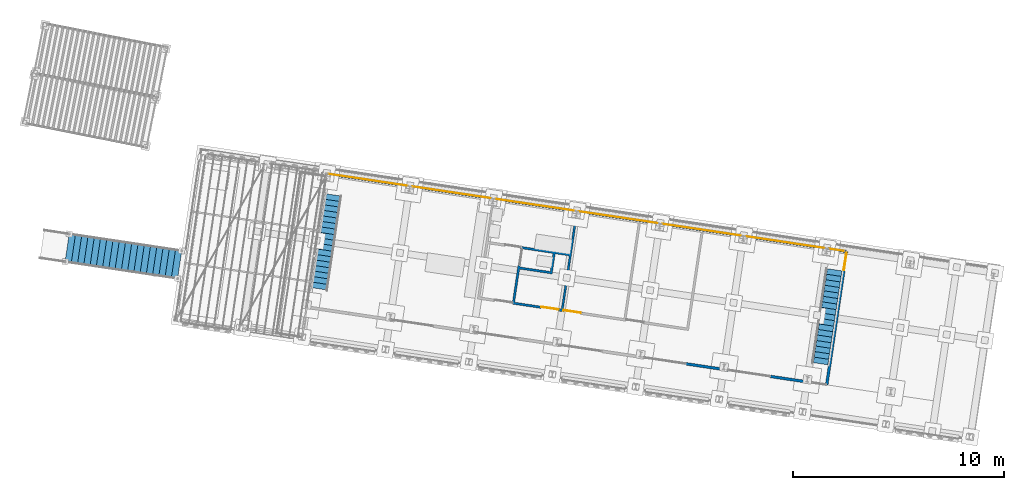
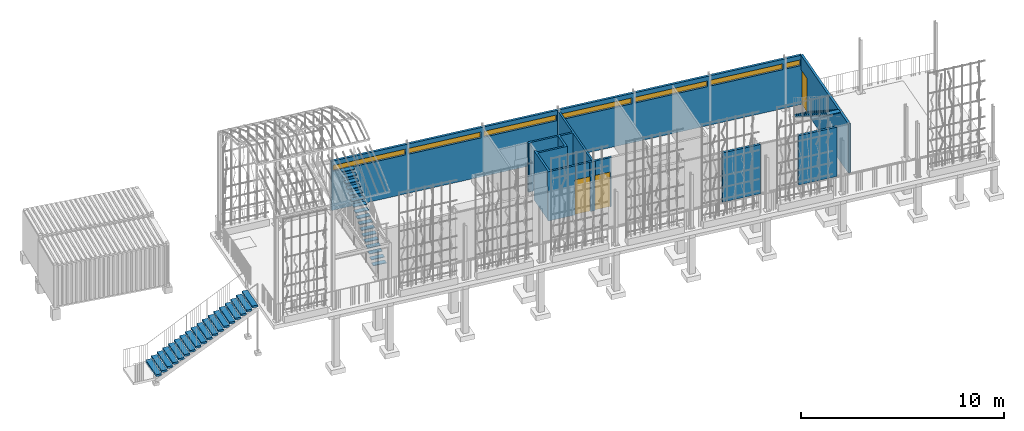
# One storey, part 137 of 143: 7 windows, 5 walls, 3 doors, 3 stair flights, 13 openings, 3 elements without a shape of their own.
"""IFC4 building model written with IfcOpenShell, lengths in metres."""

from ifc_helpers import new_model, si_unit, direction, frame, origin_with_axes, place, context, subcontext, project, spatial, polyline, outline, extrude, material, layer, layer_set, constituent, constituent_set, element, fill, aggregate, save


model = new_model("IFC4")

# Units and contexts
model_context = context("Model", 3, precision=1e-05, world=origin_with_axes(), true_north=direction((0.0, 1.0)))
body_context = subcontext(model_context, "Body", "Model", "MODEL_VIEW")
ifc_project = project(units=[si_unit("VOLUMEUNIT", "CUBIC_METRE"), si_unit("LENGTHUNIT", "METRE"), si_unit("AREAUNIT", "SQUARE_METRE")], contexts=[model_context])

# Site, building, storey
site_placement = place(None, origin_with_axes())
site = spatial("IfcSite", under=ifc_project, at=site_placement, Name="Lares · Rua das Mercês · artigo 4771")
building_placement = place(site_placement, frame((15.0, 9.7, 15.8), z_axis=(0.0, 0.0, 1.0), x_axis=(0.989015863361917, -0.147809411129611, 0.0)))
building = spatial("IfcBuilding", under=site, at=building_placement, Name="Casa Sobreposta")
storey_placement = place(building_placement, origin_with_axes())
storey = spatial("IfcBuildingStorey", under=building, at=storey_placement, Name="00 · Habitação e estacionamento", Elevation=15.8)

# Wall, openings, doors
ifc_material_1 = material(Name="OSB", Category="wood")
ifc_constituent_1 = constituent(ifc_material_1, Name="osb")
ifc_material_2 = material(Name="Lã mineral / Mineralwolle 2", Category="mineral wool")
ifc_constituent_2 = constituent(ifc_material_2, Name="wool")
ifc_constituent_set = constituent_set(constituents=[ifc_constituent_1, ifc_constituent_2], Name="OSB22 / lã mineral / OSB22")
wall_1_placement = place(storey_placement, origin_with_axes())
wall_1 = element("IfcWall", 1, at=wall_1_placement, inside=storey, material=ifc_constituent_set, Name="Divisória 2 · OSB 22 mm nas duas faces", context=body_context, shape_type="SweptSolid", body=[
    extrude(outline(polyline([(9.72999999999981, 3.383), (11.1799999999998, 3.383), (11.1799999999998, 4.24299999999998), (9.72999999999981, 4.24299999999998), (9.72999999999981, 4.19299999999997), (9.61999999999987, 4.19299999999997), (9.61999999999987, 4.24299999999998), (9.56999999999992, 4.24299999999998), (9.56999999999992, 4.35299999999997), (11.96, 4.35299999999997), (11.96, 6.27299999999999), (12.06, 6.27299999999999), (12.06, 1.70993390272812), (12.9746138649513, 1.7100856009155), (12.974632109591, 1.60008560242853), (12.1099999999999, 1.59994219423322), (12.1099999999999, 1.57999999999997), (11.8099999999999, 1.57999999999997), (11.8099999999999, 1.59995696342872), (11.05, 1.60006879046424), (11.05, 1.57999999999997), (9.56999999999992, 1.57999999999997), (9.56999999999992, 1.68999999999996), (9.61999999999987, 1.68999999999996), (9.61999999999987, 3.53299999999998), (9.72999999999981, 3.53299999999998), (9.72999999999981, 3.383)]), holes=[polyline([(9.64199999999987, 3.51099999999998), (9.64199999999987, 1.66799999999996), (9.59199999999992, 1.66799999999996), (9.59199999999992, 1.60199999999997), (11.028, 1.60199999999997), (11.028, 1.62207202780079), (11.8319999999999, 1.62195372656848), (11.8319999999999, 1.60199999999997), (12.0879999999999, 1.60199999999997), (12.0879999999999, 1.62193854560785), (12.9526284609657, 1.62208195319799), (12.9526175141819, 1.68808195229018), (12.038, 1.68793025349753), (12.038, 6.25099999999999), (11.982, 6.25099999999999), (11.982, 4.33099999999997), (9.59199999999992, 4.33099999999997), (9.59199999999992, 4.26499999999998), (9.64199999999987, 4.26499999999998), (9.64199999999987, 4.21499999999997), (9.70799999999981, 4.21499999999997), (9.70799999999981, 4.26499999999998), (11.2019999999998, 4.26499999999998), (11.2019999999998, 3.361), (9.70799999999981, 3.361), (9.70799999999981, 3.51099999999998), (9.64199999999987, 3.51099999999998)])]), origin_with_axes(), (0.0, 0.0, 1.0), 2.968),
    extrude(outline(polyline([(10.9666589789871, 1.66799999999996), (9.70799999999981, 1.66799999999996), (9.70799999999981, 3.29500000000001), (11.268, 3.29500000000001), (11.268, 4.26499999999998), (11.982, 4.26499999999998), (11.982, 1.66799999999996), (11.892736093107, 1.66799999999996), (11.8927390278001, 1.68794479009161), (10.9666619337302, 1.68808105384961), (10.9666589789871, 1.66799999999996)]), holes=[polyline([(11.96, 4.24299999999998), (11.29, 4.24299999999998), (11.29, 3.27300000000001), (9.72999999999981, 3.27300000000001), (9.72999999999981, 1.68999999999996), (10.9446622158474, 1.68999999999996), (10.9446651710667, 1.71008429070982), (11.9147422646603, 1.70994155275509), (11.9147393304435, 1.68999999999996), (11.96, 1.68999999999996), (11.96, 4.24299999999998)])]), origin_with_axes(), (0.0, 0.0, 1.0), 2.968),
    extrude(outline(polyline([(9.70799999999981, 3.51099999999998), (9.70799999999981, 3.361), (11.2019999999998, 3.361), (11.2019999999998, 4.26499999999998), (9.70799999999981, 4.26499999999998), (9.70799999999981, 4.21499999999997), (9.64199999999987, 4.21499999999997), (9.64199999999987, 4.26499999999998), (9.59199999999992, 4.26499999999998), (9.59199999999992, 4.33099999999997), (11.982, 4.33099999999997), (11.982, 6.25099999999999), (12.038, 6.25099999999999), (12.038, 1.68793025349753), (12.9526175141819, 1.68808195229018), (12.9526284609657, 1.62208195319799), (12.0879999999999, 1.62193854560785), (12.0879999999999, 1.60199999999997), (11.8319999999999, 1.60199999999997), (11.8319999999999, 1.62195372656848), (11.028, 1.62207202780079), (11.028, 1.60199999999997), (9.59199999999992, 1.60199999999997), (9.59199999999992, 1.66799999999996), (9.64199999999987, 1.66799999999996), (9.64199999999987, 3.51099999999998), (9.70799999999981, 3.51099999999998)]), holes=[polyline([(10.9666619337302, 1.68808105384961), (11.8927390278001, 1.68794479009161), (11.892736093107, 1.66799999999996), (11.982, 1.66799999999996), (11.982, 4.26499999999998), (11.268, 4.26499999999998), (11.268, 3.29500000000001), (9.70799999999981, 3.29500000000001), (9.70799999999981, 1.66799999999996), (10.9666589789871, 1.66799999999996), (10.9666619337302, 1.68808105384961)])]), origin_with_axes(), (0.0, 0.0, 1.0), 2.968),
])
opening_1_placement = place(wall_1_placement, origin_with_axes())
opening_1 = element("IfcOpeningElement", 2, at=opening_1_placement, cuts=wall_1, PredefinedType="OPENING", context=body_context, shape_type="SweptSolid", body=[
    extrude(outline(polyline([(12.9045964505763, 1.81507398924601), (12.9046495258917, 1.49507399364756), (12.0745568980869, 1.49493631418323), (12.0745038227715, 1.81493630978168), (12.9045964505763, 1.81507398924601)])), origin_with_axes(), (0.0, 0.0, 1.0), 2.1),
])
opening_2_placement = place(wall_1_placement, origin_with_axes())
element("IfcOpeningElement", 3, at=opening_2_placement, cuts=wall_1, PredefinedType="OPENING", context=body_context, shape_type="SweptSolid", body=[
    extrude(outline(polyline([(8.87451187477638, 4.15754451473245), (8.87455853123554, 4.47754451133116), (9.60464431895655, 4.4774380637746), (9.60459766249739, 4.15743806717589), (8.87451187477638, 4.15754451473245)])), origin_with_axes(), (0.0, 0.0, 1.0), 2.1),
])
opening_3_placement = place(wall_1_placement, origin_with_axes())
element("IfcOpeningElement", 4, at=opening_3_placement, cuts=wall_1, PredefinedType="OPENING", context=body_context, shape_type="SweptSolid", body=[
    extrude(outline(polyline([(8.77453708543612, 1.49507399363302), (8.77458998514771, 1.81507398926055), (9.60468215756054, 1.81493676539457), (9.60462925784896, 1.49493676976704), (8.77453708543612, 1.49507399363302)])), origin_with_axes(), (0.0, 0.0, 1.0), 2.1),
])
opening_4_placement = place(wall_1_placement, origin_with_axes())
opening_4 = element("IfcOpeningElement", 5, at=opening_4_placement, cuts=wall_1, Name="Vão porta interior 5.1", PredefinedType="OPENING", context=body_context, shape_type="SweptSolid", body=[
    extrude(outline(polyline([(11.0146335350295, 1.49507399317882), (11.0146806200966, 1.81507398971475), (11.8447577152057, 1.81495185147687), (11.8447106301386, 1.49495185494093), (11.0146335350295, 1.49507399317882)])), origin_with_axes(), (0.0, 0.0, 1.0), 2.1),
])
opening_5_placement = place(wall_1_placement, origin_with_axes())
element("IfcOpeningElement", 6, at=opening_5_placement, cuts=wall_1, PredefinedType="OPENING", context=body_context, shape_type="SweptSolid", body=[
    extrude(outline(polyline([(9.85466693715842, 3.49756304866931), (9.53466694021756, 3.49751880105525), (9.5345659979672, 4.22753601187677), (9.85456599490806, 4.22758025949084), (9.85466693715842, 3.49756304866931)])), origin_with_axes(), (0.0, 0.0, 1.0), 2.1),
])
door_1_placement = place(storey_placement, origin_with_axes())
door_1 = element("IfcDoor", 7, at=door_1_placement, inside=storey, material=ifc_material_1, Name="Porta interior 2", OperationType="SINGLE_SWING_LEFT", OverallHeight=2.1, OverallWidth=0.830092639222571, PredefinedType="DOOR", context=body_context, shape_type="SweptSolid", body=[
    extrude(outline(polyline([(12.9046200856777, 1.67257399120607), (12.9046258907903, 1.63757399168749), (12.0745332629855, 1.63743631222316), (12.0745274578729, 1.67243631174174), (12.9046200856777, 1.67257399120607)])), origin_with_axes(), (0.0, 0.0, 1.0), 2.1),
])
fill(opening_1, door_1)
door_2_placement = place(storey_placement, origin_with_axes())
door_2 = element("IfcDoor", 8, at=door_2_placement, inside=storey, material=ifc_material_1, Name="Porta interior 5", OperationType="SINGLE_SWING_LEFT", OverallHeight=2.1, OverallWidth=0.830077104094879, PredefinedType="DOOR", context=body_context, shape_type="SweptSolid", body=[
    extrude(outline(polyline([(11.0146545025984, 1.63757399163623), (11.0146596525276, 1.67257399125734), (11.8447367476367, 1.67245185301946), (11.8447315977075, 1.63745185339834), (11.0146545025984, 1.63757399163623)])), origin_with_axes(), (0.0, 0.0, 1.0), 2.1),
])
fill(opening_4, door_2)

# Wall, openings, windows
ifc_material_3 = material(Name="Aço pintado / Stahl lackiert", Category="steel")
ifc_layer_1 = layer(ifc_material_3, 0.005, Name="steel")
ifc_layer_2 = layer(ifc_material_2, 0.12, Name="wool")
ifc_layer_3 = layer(ifc_material_3, 0.00516, Name="steel")
ifc_layer_set_1 = layer_set([ifc_layer_1, ifc_layer_2, ifc_layer_3], Name="Casa DFL sandwich · 130.16 mm")
wall_2_placement = place(storey_placement, origin_with_axes())
wall_2 = element("IfcWall", 9, at=wall_2_placement, inside=storey, material=ifc_layer_set_1, Name="Fachada norte · sandwich Casa DFL", context=body_context, shape_type="SweptSolid", body=[
    extrude(outline(polyline([(24.92, 6.46508), (24.92, 6.33492), (0.0, 6.33492), (0.0, 6.46508), (24.92, 6.46508)])), origin_with_axes(), (0.0, 0.0, 1.0), 2.968),
])
opening_6_placement = place(wall_2_placement, frame((0.0, 0.0, 2.35), z_axis=(0.0, 0.0, 1.0), x_axis=(1.0, 0.0, 0.0)))
opening_6 = element("IfcOpeningElement", 10, at=opening_6_placement, cuts=wall_2, Name="Vão rasgo norte 1", PredefinedType="OPENING", context=body_context, shape_type="SweptSolid", body=[
    extrude(outline(polyline([(3.92, 6.6), (3.92, 6.2), (0.08, 6.2), (0.08, 6.6), (3.92, 6.6)])), origin_with_axes(), (0.0, 0.0, 1.0), 0.35),
])
opening_7_placement = place(wall_2_placement, frame((0.0, 0.0, 2.35), z_axis=(0.0, 0.0, 1.0), x_axis=(1.0, 0.0, 0.0)))
opening_7 = element("IfcOpeningElement", 11, at=opening_7_placement, cuts=wall_2, Name="Vão rasgo norte 2", PredefinedType="OPENING", context=body_context, shape_type="SweptSolid", body=[
    extrude(outline(polyline([(7.92, 6.6), (7.92, 6.2), (4.08, 6.2), (4.08, 6.6), (7.92, 6.6)])), origin_with_axes(), (0.0, 0.0, 1.0), 0.35),
])
opening_8_placement = place(wall_2_placement, frame((0.0, 0.0, 2.35), z_axis=(0.0, 0.0, 1.0), x_axis=(1.0, 0.0, 0.0)))
opening_8 = element("IfcOpeningElement", 12, at=opening_8_placement, cuts=wall_2, Name="Vão rasgo norte 3", PredefinedType="OPENING", context=body_context, shape_type="SweptSolid", body=[
    extrude(outline(polyline([(11.92, 6.6), (11.92, 6.2), (8.08, 6.2), (8.08, 6.6), (11.92, 6.6)])), origin_with_axes(), (0.0, 0.0, 1.0), 0.35),
])
opening_9_placement = place(wall_2_placement, frame((0.0, 0.0, 2.35), z_axis=(0.0, 0.0, 1.0), x_axis=(1.0, 0.0, 0.0)))
opening_9 = element("IfcOpeningElement", 13, at=opening_9_placement, cuts=wall_2, Name="Vão rasgo norte 4", PredefinedType="OPENING", context=body_context, shape_type="SweptSolid", body=[
    extrude(outline(polyline([(15.92, 6.6), (15.92, 6.2), (12.08, 6.2), (12.08, 6.6), (15.92, 6.6)])), origin_with_axes(), (0.0, 0.0, 1.0), 0.35),
])
opening_10_placement = place(wall_2_placement, frame((0.0, 0.0, 2.35), z_axis=(0.0, 0.0, 1.0), x_axis=(1.0, 0.0, 0.0)))
opening_10 = element("IfcOpeningElement", 14, at=opening_10_placement, cuts=wall_2, Name="Vão rasgo norte 5", PredefinedType="OPENING", context=body_context, shape_type="SweptSolid", body=[
    extrude(outline(polyline([(19.92, 6.6), (19.92, 6.2), (16.08, 6.2), (16.08, 6.6), (19.92, 6.6)])), origin_with_axes(), (0.0, 0.0, 1.0), 0.35),
])
opening_11_placement = place(wall_2_placement, frame((0.0, 0.0, 2.35), z_axis=(0.0, 0.0, 1.0), x_axis=(1.0, 0.0, 0.0)))
opening_11 = element("IfcOpeningElement", 15, at=opening_11_placement, cuts=wall_2, Name="Vão rasgo norte 6", PredefinedType="OPENING", context=body_context, shape_type="SweptSolid", body=[
    extrude(outline(polyline([(23.92, 6.6), (23.92, 6.2), (20.08, 6.2), (20.08, 6.6), (23.92, 6.6)])), origin_with_axes(), (0.0, 0.0, 1.0), 0.35),
])
opening_12_placement = place(wall_2_placement, frame((0.0, 0.0, 2.35), z_axis=(0.0, 0.0, 1.0), x_axis=(1.0, 0.0, 0.0)))
opening_12 = element("IfcOpeningElement", 16, at=opening_12_placement, cuts=wall_2, Name="Vão rasgo norte 7", PredefinedType="OPENING", context=body_context, shape_type="SweptSolid", body=[
    extrude(outline(polyline([(24.84, 6.6), (24.84, 6.2), (24.08, 6.2), (24.08, 6.6), (24.84, 6.6)])), origin_with_axes(), (0.0, 0.0, 1.0), 0.35),
])
ifc_material_4 = material(Name="Vidro / Normalglas", Category="glass")
window_1_placement = place(storey_placement, frame((0.0, 0.0, 2.375), z_axis=(0.0, 0.0, 1.0), x_axis=(1.0, 0.0, 0.0)))
window_1 = element("IfcWindow", 17, at=window_1_placement, inside=storey, material=ifc_material_4, Name="Rasgo norte 1", OverallHeight=0.3, OverallWidth=3.79, PartitioningType="SINGLE_PANEL", PredefinedType="WINDOW", context=body_context, shape_type="SweptSolid", body=[
    extrude(outline(polyline([(3.895, 6.404), (3.895, 6.396), (0.105, 6.396), (0.105, 6.404), (3.895, 6.404)])), origin_with_axes(), (0.0, 0.0, 1.0), 0.3),
])
fill(opening_6, window_1)
window_2_placement = place(storey_placement, frame((0.0, 0.0, 2.375), z_axis=(0.0, 0.0, 1.0), x_axis=(1.0, 0.0, 0.0)))
window_2 = element("IfcWindow", 18, at=window_2_placement, inside=storey, material=ifc_material_4, Name="Rasgo norte 2", OverallHeight=0.3, OverallWidth=3.79, PartitioningType="SINGLE_PANEL", PredefinedType="WINDOW", context=body_context, shape_type="SweptSolid", body=[
    extrude(outline(polyline([(7.895, 6.404), (7.895, 6.396), (4.105, 6.396), (4.105, 6.404), (7.895, 6.404)])), origin_with_axes(), (0.0, 0.0, 1.0), 0.3),
])
fill(opening_7, window_2)
window_3_placement = place(storey_placement, frame((0.0, 0.0, 2.375), z_axis=(0.0, 0.0, 1.0), x_axis=(1.0, 0.0, 0.0)))
window_3 = element("IfcWindow", 19, at=window_3_placement, inside=storey, material=ifc_material_4, Name="Rasgo norte 3", OverallHeight=0.3, OverallWidth=3.79, PartitioningType="SINGLE_PANEL", PredefinedType="WINDOW", context=body_context, shape_type="SweptSolid", body=[
    extrude(outline(polyline([(11.895, 6.404), (11.895, 6.396), (8.105, 6.396), (8.105, 6.404), (11.895, 6.404)])), origin_with_axes(), (0.0, 0.0, 1.0), 0.3),
])
fill(opening_8, window_3)
window_4_placement = place(storey_placement, frame((0.0, 0.0, 2.375), z_axis=(0.0, 0.0, 1.0), x_axis=(1.0, 0.0, 0.0)))
window_4 = element("IfcWindow", 20, at=window_4_placement, inside=storey, material=ifc_material_4, Name="Rasgo norte 4", OverallHeight=0.3, OverallWidth=3.79, PartitioningType="SINGLE_PANEL", PredefinedType="WINDOW", context=body_context, shape_type="SweptSolid", body=[
    extrude(outline(polyline([(15.895, 6.404), (15.895, 6.396), (12.105, 6.396), (12.105, 6.404), (15.895, 6.404)])), origin_with_axes(), (0.0, 0.0, 1.0), 0.3),
])
fill(opening_9, window_4)
window_5_placement = place(storey_placement, frame((0.0, 0.0, 2.375), z_axis=(0.0, 0.0, 1.0), x_axis=(1.0, 0.0, 0.0)))
window_5 = element("IfcWindow", 21, at=window_5_placement, inside=storey, material=ifc_material_4, Name="Rasgo norte 5", OverallHeight=0.3, OverallWidth=3.79, PartitioningType="SINGLE_PANEL", PredefinedType="WINDOW", context=body_context, shape_type="SweptSolid", body=[
    extrude(outline(polyline([(19.895, 6.404), (19.895, 6.396), (16.105, 6.396), (16.105, 6.404), (19.895, 6.404)])), origin_with_axes(), (0.0, 0.0, 1.0), 0.3),
])
fill(opening_10, window_5)
window_6_placement = place(storey_placement, frame((0.0, 0.0, 2.375), z_axis=(0.0, 0.0, 1.0), x_axis=(1.0, 0.0, 0.0)))
window_6 = element("IfcWindow", 22, at=window_6_placement, inside=storey, material=ifc_material_4, Name="Rasgo norte 6", OverallHeight=0.3, OverallWidth=3.79, PartitioningType="SINGLE_PANEL", PredefinedType="WINDOW", context=body_context, shape_type="SweptSolid", body=[
    extrude(outline(polyline([(23.895, 6.404), (23.895, 6.396), (20.105, 6.396), (20.105, 6.404), (23.895, 6.404)])), origin_with_axes(), (0.0, 0.0, 1.0), 0.3),
])
fill(opening_11, window_6)
window_7_placement = place(storey_placement, frame((0.0, 0.0, 2.375), z_axis=(0.0, 0.0, 1.0), x_axis=(1.0, 0.0, 0.0)))
window_7 = element("IfcWindow", 23, at=window_7_placement, inside=storey, material=ifc_material_4, Name="Rasgo norte 7", OverallHeight=0.3, OverallWidth=0.710000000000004, PartitioningType="SINGLE_PANEL", PredefinedType="WINDOW", context=body_context, shape_type="SweptSolid", body=[
    extrude(outline(polyline([(24.815, 6.404), (24.815, 6.396), (24.105, 6.396), (24.105, 6.404), (24.815, 6.404)])), origin_with_axes(), (0.0, 0.0, 1.0), 0.3),
])
fill(opening_12, window_7)

# Wall, opening, door
ifc_layer_4 = layer(ifc_material_3, 0.005, Name="steel")
ifc_layer_5 = layer(ifc_material_2, 0.12, Name="wool")
ifc_layer_6 = layer(ifc_material_3, 0.00516, Name="steel")
ifc_layer_set_2 = layer_set([ifc_layer_4, ifc_layer_5, ifc_layer_6], Name="Casa DFL sandwich · 130.16 mm")
wall_3_placement = place(storey_placement, origin_with_axes())
wall_3 = element("IfcWall", 24, at=wall_3_placement, inside=storey, material=ifc_layer_set_2, Name="Separação do estacionamento", context=body_context, shape_type="SweptSolid", body=[
    extrude(outline(polyline([(24.87992, 6.4), (25.01008, 6.4), (25.01008, 0.0), (24.87992, 0.0), (24.87992, 6.4)])), origin_with_axes(), (0.0, 0.0, 1.0), 2.968),
])
opening_13_placement = place(wall_3_placement, origin_with_axes())
opening_13 = element("IfcOpeningElement", 25, at=opening_13_placement, cuts=wall_3, Name="Vão de acesso do estacionamento", PredefinedType="OPENING", context=body_context, shape_type="SweptSolid", body=[
    extrude(outline(polyline([(24.745, 6.34), (25.145, 6.34), (25.145, 5.51), (24.745, 5.51), (24.745, 6.34)])), origin_with_axes(), (0.0, 0.0, 1.0), 2.1),
])
door_3_placement = place(storey_placement, origin_with_axes())
door_3 = element("IfcDoor", 26, at=door_3_placement, inside=storey, material=ifc_material_3, Name="Porta do estacionamento", OperationType="SINGLE_SWING_LEFT", OverallHeight=2.1, OverallWidth=0.83, PredefinedType="DOOR", context=body_context, shape_type="SweptSolid", body=[
    extrude(outline(polyline([(24.925, 6.34), (24.965, 6.34), (24.965, 5.51), (24.925, 5.51), (24.925, 6.34)])), origin_with_axes(), (0.0, 0.0, 1.0), 2.1),
])
fill(opening_13, door_3)

# Walls
ifc_layer_7 = layer(ifc_material_3, 0.005, Name="steel")
ifc_layer_8 = layer(ifc_material_2, 0.12, Name="wool")
ifc_layer_9 = layer(ifc_material_3, 0.00516, Name="steel")
ifc_layer_set_3 = layer_set([ifc_layer_7, ifc_layer_8, ifc_layer_9], Name="Casa DFL sandwich · 130.16 mm")
wall_4_placement = place(storey_placement, origin_with_axes())
element("IfcWall", 27, at=wall_4_placement, inside=storey, material=ifc_layer_set_3, Name="Painel opaco sul 9", context=body_context, shape_type="SweptSolid", body=[
    extrude(outline(polyline([(20.2133333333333, 0.06508), (20.2133333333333, -0.06508), (18.192, -0.06508), (18.192, 0.06508), (20.2133333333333, 0.06508)])), origin_with_axes(), (0.0, 0.0, 1.0), 2.968),
])
ifc_layer_10 = layer(ifc_material_3, 0.005, Name="steel")
ifc_layer_11 = layer(ifc_material_2, 0.12, Name="wool")
ifc_layer_12 = layer(ifc_material_3, 0.00516, Name="steel")
ifc_layer_set_4 = layer_set([ifc_layer_10, ifc_layer_11, ifc_layer_12], Name="Casa DFL sandwich · 130.16 mm")
wall_5_placement = place(storey_placement, origin_with_axes())
element("IfcWall", 28, at=wall_5_placement, inside=storey, material=ifc_layer_set_4, Name="Painel opaco sul 11", context=body_context, shape_type="SweptSolid", body=[
    extrude(outline(polyline([(24.256, 0.06508), (24.256, -0.06508), (22.2346666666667, -0.06508), (22.2346666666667, 0.06508), (24.256, 0.06508)])), origin_with_axes(), (0.0, 0.0, 1.0), 2.968),
])

# Stair, stair flight
stair_1_placement = place(storey_placement, origin_with_axes())
stair_1 = element("IfcStair", 29, at=stair_1_placement, inside=storey, Name="Escada sala", PredefinedType="STRAIGHT_RUN_STAIR")
stair_flight_1_placement = place(stair_1_placement, origin_with_axes())
stair_flight_1 = element("IfcStairFlight", 30, at=stair_flight_1_placement, material=ifc_material_1, Name="Lanço sala", NumberOfRisers=18, NumberOfTreads=17, PredefinedType="STRAIGHT", RiserHeight=0.18, TreadLength=0.265, context=body_context, shape_type="SweptSolid", body=[
    extrude(outline(polyline([(0.79, 0.9475), (0.79, 1.2125), (0.09, 1.2125), (0.09, 0.9475), (0.79, 0.9475)])), frame((0.0, 0.0, 0.14), z_axis=(0.0, 0.0, 1.0), x_axis=(1.0, 0.0, 0.0)), (0.0, 0.0, 1.0), 0.04),
    extrude(outline(polyline([(0.79, 1.2125), (0.79, 1.4775), (0.09, 1.4775), (0.09, 1.2125), (0.79, 1.2125)])), frame((0.0, 0.0, 0.32), z_axis=(0.0, 0.0, 1.0), x_axis=(1.0, 0.0, 0.0)), (0.0, 0.0, 1.0), 0.04),
    extrude(outline(polyline([(0.79, 1.4775), (0.79, 1.7425), (0.09, 1.7425), (0.09, 1.4775), (0.79, 1.4775)])), frame((0.0, 0.0, 0.5), z_axis=(0.0, 0.0, 1.0), x_axis=(1.0, 0.0, 0.0)), (0.0, 0.0, 1.0), 0.04),
    extrude(outline(polyline([(0.79, 1.7425), (0.79, 2.0075), (0.09, 2.0075), (0.09, 1.7425), (0.79, 1.7425)])), frame((0.0, 0.0, 0.68), z_axis=(0.0, 0.0, 1.0), x_axis=(1.0, 0.0, 0.0)), (0.0, 0.0, 1.0), 0.04),
    extrude(outline(polyline([(0.79, 2.0075), (0.79, 2.2725), (0.09, 2.2725), (0.09, 2.0075), (0.79, 2.0075)])), frame((0.0, 0.0, 0.86), z_axis=(0.0, 0.0, 1.0), x_axis=(1.0, 0.0, 0.0)), (0.0, 0.0, 1.0), 0.04),
    extrude(outline(polyline([(0.79, 2.2725), (0.79, 2.5375), (0.09, 2.5375), (0.09, 2.2725), (0.79, 2.2725)])), frame((0.0, 0.0, 1.04), z_axis=(0.0, 0.0, 1.0), x_axis=(1.0, 0.0, 0.0)), (0.0, 0.0, 1.0), 0.04),
    extrude(outline(polyline([(0.79, 2.5375), (0.79, 2.8025), (0.09, 2.8025), (0.09, 2.5375), (0.79, 2.5375)])), frame((0.0, 0.0, 1.22), z_axis=(0.0, 0.0, 1.0), x_axis=(1.0, 0.0, 0.0)), (0.0, 0.0, 1.0), 0.04),
    extrude(outline(polyline([(0.79, 2.8025), (0.79, 3.0675), (0.09, 3.0675), (0.09, 2.8025), (0.79, 2.8025)])), frame((0.0, 0.0, 1.4), z_axis=(0.0, 0.0, 1.0), x_axis=(1.0, 0.0, 0.0)), (0.0, 0.0, 1.0), 0.04),
    extrude(outline(polyline([(0.79, 3.0675), (0.79, 3.3325), (0.09, 3.3325), (0.09, 3.0675), (0.79, 3.0675)])), frame((0.0, 0.0, 1.58), z_axis=(0.0, 0.0, 1.0), x_axis=(1.0, 0.0, 0.0)), (0.0, 0.0, 1.0), 0.04),
    extrude(outline(polyline([(0.79, 3.3325), (0.79, 3.5975), (0.09, 3.5975), (0.09, 3.3325), (0.79, 3.3325)])), frame((0.0, 0.0, 1.76), z_axis=(0.0, 0.0, 1.0), x_axis=(1.0, 0.0, 0.0)), (0.0, 0.0, 1.0), 0.04),
    extrude(outline(polyline([(0.79, 3.5975), (0.79, 3.8625), (0.09, 3.8625), (0.09, 3.5975), (0.79, 3.5975)])), frame((0.0, 0.0, 1.94), z_axis=(0.0, 0.0, 1.0), x_axis=(1.0, 0.0, 0.0)), (0.0, 0.0, 1.0), 0.04),
    extrude(outline(polyline([(0.79, 3.8625), (0.79, 4.1275), (0.09, 4.1275), (0.09, 3.8625), (0.79, 3.8625)])), frame((0.0, 0.0, 2.12), z_axis=(0.0, 0.0, 1.0), x_axis=(1.0, 0.0, 0.0)), (0.0, 0.0, 1.0), 0.04),
    extrude(outline(polyline([(0.79, 4.1275), (0.79, 4.3925), (0.09, 4.3925), (0.09, 4.1275), (0.79, 4.1275)])), frame((0.0, 0.0, 2.3), z_axis=(0.0, 0.0, 1.0), x_axis=(1.0, 0.0, 0.0)), (0.0, 0.0, 1.0), 0.04),
    extrude(outline(polyline([(0.79, 4.3925), (0.79, 4.6575), (0.09, 4.6575), (0.09, 4.3925), (0.79, 4.3925)])), frame((0.0, 0.0, 2.48), z_axis=(0.0, 0.0, 1.0), x_axis=(1.0, 0.0, 0.0)), (0.0, 0.0, 1.0), 0.04),
    extrude(outline(polyline([(0.79, 4.6575), (0.79, 4.9225), (0.09, 4.9225), (0.09, 4.6575), (0.79, 4.6575)])), frame((0.0, 0.0, 2.66), z_axis=(0.0, 0.0, 1.0), x_axis=(1.0, 0.0, 0.0)), (0.0, 0.0, 1.0), 0.04),
    extrude(outline(polyline([(0.79, 4.9225), (0.79, 5.1875), (0.09, 5.1875), (0.09, 4.9225), (0.79, 4.9225)])), frame((0.0, 0.0, 2.84), z_axis=(0.0, 0.0, 1.0), x_axis=(1.0, 0.0, 0.0)), (0.0, 0.0, 1.0), 0.04),
    extrude(outline(polyline([(0.79, 5.1875), (0.79, 5.4525), (0.09, 5.4525), (0.09, 5.1875), (0.79, 5.1875)])), frame((0.0, 0.0, 3.02), z_axis=(0.0, 0.0, 1.0), x_axis=(1.0, 0.0, 0.0)), (0.0, 0.0, 1.0), 0.04),
])
aggregate(stair_1, [stair_flight_1])

stair_2_placement = place(storey_placement, origin_with_axes())
stair_2 = element("IfcStair", 31, at=stair_2_placement, inside=storey, Name="Escada garagem", PredefinedType="STRAIGHT_RUN_STAIR")
stair_flight_2_placement = place(stair_2_placement, origin_with_axes())
stair_flight_2 = element("IfcStairFlight", 32, at=stair_flight_2_placement, material=ifc_material_1, Name="Lanço garagem", NumberOfRisers=18, NumberOfTreads=17, PredefinedType="STRAIGHT", RiserHeight=0.18, TreadLength=0.265, context=body_context, shape_type="SweptSolid", body=[
    extrude(outline(polyline([(24.86, 5.1875), (24.86, 5.4525), (24.16, 5.4525), (24.16, 5.1875), (24.86, 5.1875)])), frame((0.0, 0.0, 0.14), z_axis=(0.0, 0.0, 1.0), x_axis=(1.0, 0.0, 0.0)), (0.0, 0.0, 1.0), 0.04),
    extrude(outline(polyline([(24.86, 4.9225), (24.86, 5.1875), (24.16, 5.1875), (24.16, 4.9225), (24.86, 4.9225)])), frame((0.0, 0.0, 0.32), z_axis=(0.0, 0.0, 1.0), x_axis=(1.0, 0.0, 0.0)), (0.0, 0.0, 1.0), 0.04),
    extrude(outline(polyline([(24.86, 4.6575), (24.86, 4.9225), (24.16, 4.9225), (24.16, 4.6575), (24.86, 4.6575)])), frame((0.0, 0.0, 0.5), z_axis=(0.0, 0.0, 1.0), x_axis=(1.0, 0.0, 0.0)), (0.0, 0.0, 1.0), 0.04),
    extrude(outline(polyline([(24.86, 4.3925), (24.86, 4.6575), (24.16, 4.6575), (24.16, 4.3925), (24.86, 4.3925)])), frame((0.0, 0.0, 0.68), z_axis=(0.0, 0.0, 1.0), x_axis=(1.0, 0.0, 0.0)), (0.0, 0.0, 1.0), 0.04),
    extrude(outline(polyline([(24.86, 4.1275), (24.86, 4.3925), (24.16, 4.3925), (24.16, 4.1275), (24.86, 4.1275)])), frame((0.0, 0.0, 0.86), z_axis=(0.0, 0.0, 1.0), x_axis=(1.0, 0.0, 0.0)), (0.0, 0.0, 1.0), 0.04),
    extrude(outline(polyline([(24.86, 3.8625), (24.86, 4.1275), (24.16, 4.1275), (24.16, 3.8625), (24.86, 3.8625)])), frame((0.0, 0.0, 1.04), z_axis=(0.0, 0.0, 1.0), x_axis=(1.0, 0.0, 0.0)), (0.0, 0.0, 1.0), 0.04),
    extrude(outline(polyline([(24.86, 3.5975), (24.86, 3.8625), (24.16, 3.8625), (24.16, 3.5975), (24.86, 3.5975)])), frame((0.0, 0.0, 1.22), z_axis=(0.0, 0.0, 1.0), x_axis=(1.0, 0.0, 0.0)), (0.0, 0.0, 1.0), 0.04),
    extrude(outline(polyline([(24.86, 3.3325), (24.86, 3.5975), (24.16, 3.5975), (24.16, 3.3325), (24.86, 3.3325)])), frame((0.0, 0.0, 1.4), z_axis=(0.0, 0.0, 1.0), x_axis=(1.0, 0.0, 0.0)), (0.0, 0.0, 1.0), 0.04),
    extrude(outline(polyline([(24.86, 3.0675), (24.86, 3.3325), (24.16, 3.3325), (24.16, 3.0675), (24.86, 3.0675)])), frame((0.0, 0.0, 1.58), z_axis=(0.0, 0.0, 1.0), x_axis=(1.0, 0.0, 0.0)), (0.0, 0.0, 1.0), 0.04),
    extrude(outline(polyline([(24.86, 2.8025), (24.86, 3.0675), (24.16, 3.0675), (24.16, 2.8025), (24.86, 2.8025)])), frame((0.0, 0.0, 1.76), z_axis=(0.0, 0.0, 1.0), x_axis=(1.0, 0.0, 0.0)), (0.0, 0.0, 1.0), 0.04),
    extrude(outline(polyline([(24.86, 2.5375), (24.86, 2.8025), (24.16, 2.8025), (24.16, 2.5375), (24.86, 2.5375)])), frame((0.0, 0.0, 1.94), z_axis=(0.0, 0.0, 1.0), x_axis=(1.0, 0.0, 0.0)), (0.0, 0.0, 1.0), 0.04),
    extrude(outline(polyline([(24.86, 2.2725), (24.86, 2.5375), (24.16, 2.5375), (24.16, 2.2725), (24.86, 2.2725)])), frame((0.0, 0.0, 2.12), z_axis=(0.0, 0.0, 1.0), x_axis=(1.0, 0.0, 0.0)), (0.0, 0.0, 1.0), 0.04),
    extrude(outline(polyline([(24.86, 2.0075), (24.86, 2.2725), (24.16, 2.2725), (24.16, 2.0075), (24.86, 2.0075)])), frame((0.0, 0.0, 2.3), z_axis=(0.0, 0.0, 1.0), x_axis=(1.0, 0.0, 0.0)), (0.0, 0.0, 1.0), 0.04),
    extrude(outline(polyline([(24.86, 1.7425), (24.86, 2.0075), (24.16, 2.0075), (24.16, 1.7425), (24.86, 1.7425)])), frame((0.0, 0.0, 2.48), z_axis=(0.0, 0.0, 1.0), x_axis=(1.0, 0.0, 0.0)), (0.0, 0.0, 1.0), 0.04),
    extrude(outline(polyline([(24.86, 1.4775), (24.86, 1.7425), (24.16, 1.7425), (24.16, 1.4775), (24.86, 1.4775)])), frame((0.0, 0.0, 2.66), z_axis=(0.0, 0.0, 1.0), x_axis=(1.0, 0.0, 0.0)), (0.0, 0.0, 1.0), 0.04),
    extrude(outline(polyline([(24.86, 1.2125), (24.86, 1.4775), (24.16, 1.4775), (24.16, 1.2125), (24.86, 1.2125)])), frame((0.0, 0.0, 2.84), z_axis=(0.0, 0.0, 1.0), x_axis=(1.0, 0.0, 0.0)), (0.0, 0.0, 1.0), 0.04),
    extrude(outline(polyline([(24.86, 0.947499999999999), (24.86, 1.2125), (24.16, 1.2125), (24.16, 0.947499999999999), (24.86, 0.947499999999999)])), frame((0.0, 0.0, 3.02), z_axis=(0.0, 0.0, 1.0), x_axis=(1.0, 0.0, 0.0)), (0.0, 0.0, 1.0), 0.04),
])
aggregate(stair_2, [stair_flight_2])

stair_3_placement = place(storey_placement, origin_with_axes())
stair_3 = element("IfcStair", 33, at=stair_3_placement, inside=storey, Name="Jardim · escada pela fachada poente", PredefinedType="STRAIGHT_RUN_STAIR")
ifc_material_5 = material(Name="Betão armado / Stahlbeton", Category="concrete")
stair_flight_3_placement = place(stair_3_placement, origin_with_axes())
stair_flight_3 = element("IfcStairFlight", 34, at=stair_flight_3_placement, material=ifc_material_5, Name="Jardim · lanço poente", NumberOfRisers=19, NumberOfTreads=18, PredefinedType="STRAIGHT", RiserHeight=0.166315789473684, TreadLength=0.3, context=body_context, shape_type="SweptSolid", body=[
    extrude(outline(polyline([(-6.25, 0.4), (-6.25, 1.8), (-6.55, 1.8), (-6.55, 0.4), (-6.25, 0.4)])), frame((0.0, 0.0, -0.326315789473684), z_axis=(0.0, 0.0, 1.0), x_axis=(1.0, 0.0, 0.0)), (0.0, 0.0, 1.0), 0.12),
    extrude(outline(polyline([(-6.55, 0.4), (-6.55, 1.8), (-6.85, 1.8), (-6.85, 0.4), (-6.55, 0.4)])), frame((0.0, 0.0, -0.492631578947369), z_axis=(0.0, 0.0, 1.0), x_axis=(1.0, 0.0, 0.0)), (0.0, 0.0, 1.0), 0.12),
    extrude(outline(polyline([(-6.85, 0.4), (-6.85, 1.8), (-7.15, 1.8), (-7.15, 0.4), (-6.85, 0.4)])), frame((0.0, 0.0, -0.658947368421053), z_axis=(0.0, 0.0, 1.0), x_axis=(1.0, 0.0, 0.0)), (0.0, 0.0, 1.0), 0.12),
    extrude(outline(polyline([(-7.15, 0.4), (-7.15, 1.8), (-7.45, 1.8), (-7.45, 0.4), (-7.15, 0.4)])), frame((0.0, 0.0, -0.825263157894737), z_axis=(0.0, 0.0, 1.0), x_axis=(1.0, 0.0, 0.0)), (0.0, 0.0, 1.0), 0.12),
    extrude(outline(polyline([(-7.45, 0.4), (-7.45, 1.8), (-7.75, 1.8), (-7.75, 0.4), (-7.45, 0.4)])), frame((0.0, 0.0, -0.991578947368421), z_axis=(0.0, 0.0, 1.0), x_axis=(1.0, 0.0, 0.0)), (0.0, 0.0, 1.0), 0.12),
    extrude(outline(polyline([(-7.75, 0.4), (-7.75, 1.8), (-8.05, 1.8), (-8.05, 0.4), (-7.75, 0.4)])), frame((0.0, 0.0, -1.15789473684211), z_axis=(0.0, 0.0, 1.0), x_axis=(1.0, 0.0, 0.0)), (0.0, 0.0, 1.0), 0.12),
    extrude(outline(polyline([(-8.05, 0.4), (-8.05, 1.8), (-8.35, 1.8), (-8.35, 0.4), (-8.05, 0.4)])), frame((0.0, 0.0, -1.32421052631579), z_axis=(0.0, 0.0, 1.0), x_axis=(1.0, 0.0, 0.0)), (0.0, 0.0, 1.0), 0.12),
    extrude(outline(polyline([(-8.35, 0.4), (-8.35, 1.8), (-8.65, 1.8), (-8.65, 0.4), (-8.35, 0.4)])), frame((0.0, 0.0, -1.49052631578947), z_axis=(0.0, 0.0, 1.0), x_axis=(1.0, 0.0, 0.0)), (0.0, 0.0, 1.0), 0.12),
    extrude(outline(polyline([(-8.65, 0.4), (-8.65, 1.8), (-8.95, 1.8), (-8.95, 0.4), (-8.65, 0.4)])), frame((0.0, 0.0, -1.65684210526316), z_axis=(0.0, 0.0, 1.0), x_axis=(1.0, 0.0, 0.0)), (0.0, 0.0, 1.0), 0.12),
    extrude(outline(polyline([(-8.95, 0.4), (-8.95, 1.8), (-9.25, 1.8), (-9.25, 0.4), (-8.95, 0.4)])), frame((0.0, 0.0, -1.82315789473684), z_axis=(0.0, 0.0, 1.0), x_axis=(1.0, 0.0, 0.0)), (0.0, 0.0, 1.0), 0.12),
    extrude(outline(polyline([(-9.25, 0.4), (-9.25, 1.8), (-9.55, 1.8), (-9.55, 0.4), (-9.25, 0.4)])), frame((0.0, 0.0, -1.98947368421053), z_axis=(0.0, 0.0, 1.0), x_axis=(1.0, 0.0, 0.0)), (0.0, 0.0, 1.0), 0.12),
    extrude(outline(polyline([(-9.55, 0.4), (-9.55, 1.8), (-9.85, 1.8), (-9.85, 0.4), (-9.55, 0.4)])), frame((0.0, 0.0, -2.15578947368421), z_axis=(0.0, 0.0, 1.0), x_axis=(1.0, 0.0, 0.0)), (0.0, 0.0, 1.0), 0.12),
    extrude(outline(polyline([(-9.85, 0.4), (-9.85, 1.8), (-10.15, 1.8), (-10.15, 0.4), (-9.85, 0.4)])), frame((0.0, 0.0, -2.3221052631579), z_axis=(0.0, 0.0, 1.0), x_axis=(1.0, 0.0, 0.0)), (0.0, 0.0, 1.0), 0.12),
    extrude(outline(polyline([(-10.15, 0.4), (-10.15, 1.8), (-10.45, 1.8), (-10.45, 0.4), (-10.15, 0.4)])), frame((0.0, 0.0, -2.48842105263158), z_axis=(0.0, 0.0, 1.0), x_axis=(1.0, 0.0, 0.0)), (0.0, 0.0, 1.0), 0.12),
    extrude(outline(polyline([(-10.45, 0.4), (-10.45, 1.8), (-10.75, 1.8), (-10.75, 0.4), (-10.45, 0.4)])), frame((0.0, 0.0, -2.65473684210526), z_axis=(0.0, 0.0, 1.0), x_axis=(1.0, 0.0, 0.0)), (0.0, 0.0, 1.0), 0.12),
    extrude(outline(polyline([(-10.75, 0.4), (-10.75, 1.8), (-11.05, 1.8), (-11.05, 0.4), (-10.75, 0.4)])), frame((0.0, 0.0, -2.82105263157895), z_axis=(0.0, 0.0, 1.0), x_axis=(1.0, 0.0, 0.0)), (0.0, 0.0, 1.0), 0.12),
    extrude(outline(polyline([(-11.05, 0.4), (-11.05, 1.8), (-11.35, 1.8), (-11.35, 0.4), (-11.05, 0.4)])), frame((0.0, 0.0, -2.98736842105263), z_axis=(0.0, 0.0, 1.0), x_axis=(1.0, 0.0, 0.0)), (0.0, 0.0, 1.0), 0.12),
    extrude(outline(polyline([(-11.35, 0.4), (-11.35, 1.8), (-11.65, 1.8), (-11.65, 0.4), (-11.35, 0.4)])), frame((0.0, 0.0, -3.15368421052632), z_axis=(0.0, 0.0, 1.0), x_axis=(1.0, 0.0, 0.0)), (0.0, 0.0, 1.0), 0.12),
])
aggregate(stair_3, [stair_flight_3])

save(model, "model.ifc")
